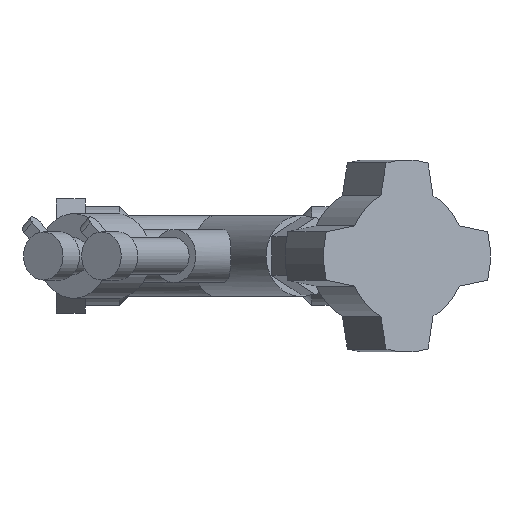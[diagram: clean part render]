
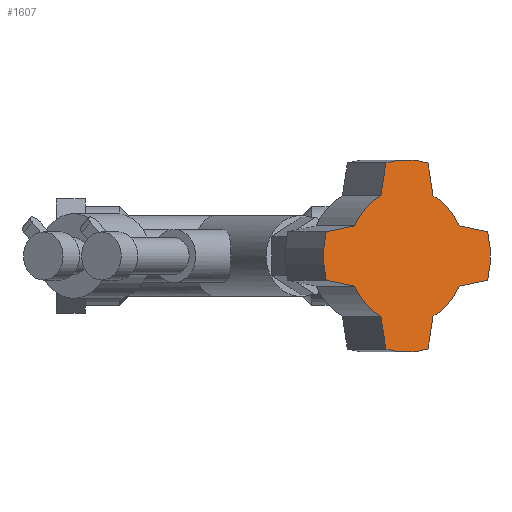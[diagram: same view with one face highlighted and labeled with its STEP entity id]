
A CAD part, front view. The second image highlights one B-rep face of the part: STEP entity #1607.
In plain terms, the highlighted planar face has unit normal (0.5, -0.866, 0).
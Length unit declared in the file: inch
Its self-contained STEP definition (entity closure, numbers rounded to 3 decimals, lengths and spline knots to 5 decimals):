
#63=LINE('',#2414,#197);
#67=LINE('',#2421,#201);
#70=LINE('',#2429,#204);
#74=LINE('',#2438,#208);
#78=LINE('',#2450,#212);
#82=LINE('',#2462,#216);
#86=LINE('',#2471,#220);
#90=LINE('',#2480,#224);
#197=VECTOR('',#1916,0.3937);
#201=VECTOR('',#1922,0.3937);
#204=VECTOR('',#1927,0.3937);
#208=VECTOR('',#1933,0.3937);
#212=VECTOR('',#1945,0.3937);
#216=VECTOR('',#1957,0.3937);
#220=VECTOR('',#1963,0.3937);
#224=VECTOR('',#1969,0.3937);
#383=FACE_OUTER_BOUND('',#472,.T.);
#472=EDGE_LOOP('',(#1074,#1075,#1076,#1077,#1078,#1079,#1080,#1081,#1082,
#1083,#1084,#1085,#1086,#1087,#1088,#1089));
#563=CIRCLE('',#1710,0.7);
#565=CIRCLE('',#1717,0.7);
#567=CIRCLE('',#1721,0.7);
#569=CIRCLE('',#1727,0.7);
#571=CIRCLE('',#1730,1.);
#573=CIRCLE('',#1733,1.);
#575=CIRCLE('',#1736,1.);
#576=CIRCLE('',#1738,1.);
#641=VERTEX_POINT('',#2405);
#642=VERTEX_POINT('',#2407);
#644=VERTEX_POINT('',#2413);
#646=VERTEX_POINT('',#2419);
#649=VERTEX_POINT('',#2426);
#650=VERTEX_POINT('',#2428);
#653=VERTEX_POINT('',#2435);
#654=VERTEX_POINT('',#2437);
#657=VERTEX_POINT('',#2447);
#658=VERTEX_POINT('',#2449);
#660=VERTEX_POINT('',#2455);
#662=VERTEX_POINT('',#2461);
#665=VERTEX_POINT('',#2468);
#666=VERTEX_POINT('',#2470);
#669=VERTEX_POINT('',#2477);
#670=VERTEX_POINT('',#2479);
#789=EDGE_CURVE('',#642,#641,#563,.T.);
#792=EDGE_CURVE('',#644,#642,#63,.T.);
#796=EDGE_CURVE('',#641,#646,#67,.T.);
#799=EDGE_CURVE('',#650,#649,#70,.T.);
#803=EDGE_CURVE('',#654,#653,#74,.T.);
#806=EDGE_CURVE('',#653,#650,#565,.T.);
#809=EDGE_CURVE('',#658,#657,#78,.T.);
#812=EDGE_CURVE('',#660,#658,#567,.T.);
#815=EDGE_CURVE('',#662,#660,#82,.T.);
#819=EDGE_CURVE('',#666,#665,#86,.T.);
#823=EDGE_CURVE('',#670,#669,#90,.T.);
#826=EDGE_CURVE('',#669,#666,#569,.T.);
#828=EDGE_CURVE('',#670,#657,#571,.T.);
#830=EDGE_CURVE('',#654,#646,#573,.T.);
#832=EDGE_CURVE('',#662,#649,#575,.T.);
#833=EDGE_CURVE('',#644,#665,#576,.T.);
#1074=ORIENTED_EDGE('',*,*,#792,.T.);
#1075=ORIENTED_EDGE('',*,*,#789,.T.);
#1076=ORIENTED_EDGE('',*,*,#796,.T.);
#1077=ORIENTED_EDGE('',*,*,#830,.F.);
#1078=ORIENTED_EDGE('',*,*,#803,.T.);
#1079=ORIENTED_EDGE('',*,*,#806,.T.);
#1080=ORIENTED_EDGE('',*,*,#799,.T.);
#1081=ORIENTED_EDGE('',*,*,#832,.F.);
#1082=ORIENTED_EDGE('',*,*,#815,.T.);
#1083=ORIENTED_EDGE('',*,*,#812,.T.);
#1084=ORIENTED_EDGE('',*,*,#809,.T.);
#1085=ORIENTED_EDGE('',*,*,#828,.F.);
#1086=ORIENTED_EDGE('',*,*,#823,.T.);
#1087=ORIENTED_EDGE('',*,*,#826,.T.);
#1088=ORIENTED_EDGE('',*,*,#819,.T.);
#1089=ORIENTED_EDGE('',*,*,#833,.F.);
#1449=PLANE('',#1737);
#1607=ADVANCED_FACE('',(#383),#1449,.T.);
#1710=AXIS2_PLACEMENT_3D('',#2408,#1910,#1911);
#1717=AXIS2_PLACEMENT_3D('',#2442,#1939,#1940);
#1721=AXIS2_PLACEMENT_3D('',#2456,#1951,#1952);
#1727=AXIS2_PLACEMENT_3D('',#2484,#1975,#1976);
#1730=AXIS2_PLACEMENT_3D('',#2487,#1981,#1982);
#1733=AXIS2_PLACEMENT_3D('',#2490,#1987,#1988);
#1736=AXIS2_PLACEMENT_3D('',#2493,#1993,#1994);
#1737=AXIS2_PLACEMENT_3D('',#2494,#1995,#1996);
#1738=AXIS2_PLACEMENT_3D('',#2495,#1997,#1998);
#1910=DIRECTION('center_axis',(0.5,-0.866,0.));
#1911=DIRECTION('ref_axis',(-0.775,-0.447,-0.446));
#1916=DIRECTION('',(0.853,0.492,-0.174));
#1922=DIRECTION('',(0.15,0.087,-0.985));
#1927=DIRECTION('',(0.853,0.492,0.174));
#1933=DIRECTION('',(0.15,0.087,0.985));
#1939=DIRECTION('center_axis',(0.5,-0.866,0.));
#1940=DIRECTION('ref_axis',(0.387,0.223,-0.895));
#1945=DIRECTION('',(-0.15,-0.087,0.985));
#1951=DIRECTION('center_axis',(0.5,-0.866,0.));
#1952=DIRECTION('ref_axis',(-0.775,-0.447,-0.446));
#1957=DIRECTION('',(-0.853,-0.492,0.174));
#1963=DIRECTION('',(-0.853,-0.492,-0.174));
#1969=DIRECTION('',(-0.15,-0.087,-0.985));
#1975=DIRECTION('center_axis',(0.5,-0.866,0.));
#1976=DIRECTION('ref_axis',(-0.387,-0.223,0.895));
#1981=DIRECTION('center_axis',(-0.5,0.866,0.));
#1982=DIRECTION('ref_axis',(0.866,0.5,0.));
#1987=DIRECTION('center_axis',(-0.5,0.866,0.));
#1988=DIRECTION('ref_axis',(0.866,0.5,0.));
#1993=DIRECTION('center_axis',(-0.5,0.866,0.));
#1994=DIRECTION('ref_axis',(0.866,0.5,0.));
#1995=DIRECTION('center_axis',(0.5,-0.866,0.));
#1996=DIRECTION('ref_axis',(0.,0.,-1.));
#1997=DIRECTION('center_axis',(-0.5,0.866,0.));
#1998=DIRECTION('ref_axis',(0.866,0.5,0.));
#2405=CARTESIAN_POINT('',(1.71545,-3.59625,-0.62637));
#2407=CARTESIAN_POINT('',(1.44363,-3.75319,-0.3125));
#2408=CARTESIAN_POINT('Origin',(1.98608,-3.44,0.));
#2413=CARTESIAN_POINT('',(1.14808,-3.92382,-0.25233));
#2414=CARTESIAN_POINT('',(1.11581,-3.94245,-0.24575));
#2419=CARTESIAN_POINT('',(1.76757,-3.56616,-0.96764));
#2421=CARTESIAN_POINT('',(1.66009,-3.62821,-0.26385));
#2426=CARTESIAN_POINT('',(2.82409,-2.95618,-0.25233));
#2428=CARTESIAN_POINT('',(2.52854,-3.12681,-0.3125));
#2429=CARTESIAN_POINT('',(1.86868,-3.50779,-0.44685));
#2435=CARTESIAN_POINT('',(2.25672,-3.28375,-0.62637));
#2437=CARTESIAN_POINT('',(2.2046,-3.31384,-0.96764));
#2438=CARTESIAN_POINT('',(2.25991,-3.28191,-0.60549));
#2442=CARTESIAN_POINT('Origin',(1.98608,-3.44,0.));
#2447=CARTESIAN_POINT('',(2.2046,-3.31384,0.96764));
#2449=CARTESIAN_POINT('',(2.25672,-3.28375,0.62637));
#2450=CARTESIAN_POINT('',(2.28596,-3.26687,0.43486));
#2455=CARTESIAN_POINT('',(2.52854,-3.12681,0.3125));
#2456=CARTESIAN_POINT('Origin',(1.98608,-3.44,0.));
#2461=CARTESIAN_POINT('',(2.82409,-2.95618,0.25233));
#2462=CARTESIAN_POINT('',(2.01645,-3.42247,0.41676));
#2468=CARTESIAN_POINT('',(1.14808,-3.92382,0.25233));
#2470=CARTESIAN_POINT('',(1.44363,-3.75319,0.3125));
#2471=CARTESIAN_POINT('',(1.26358,-3.85714,0.27584));
#2477=CARTESIAN_POINT('',(1.71545,-3.59625,0.62637));
#2479=CARTESIAN_POINT('',(1.76757,-3.56616,0.96764));
#2480=CARTESIAN_POINT('',(1.68615,-3.61317,0.43448));
#2484=CARTESIAN_POINT('Origin',(1.98608,-3.44,0.));
#2487=CARTESIAN_POINT('Origin',(1.98608,-3.44,0.));
#2490=CARTESIAN_POINT('Origin',(1.98608,-3.44,0.));
#2493=CARTESIAN_POINT('Origin',(1.98608,-3.44,0.));
#2494=CARTESIAN_POINT('Origin',(1.12006,-3.94,0.));
#2495=CARTESIAN_POINT('Origin',(1.98608,-3.44,0.));
